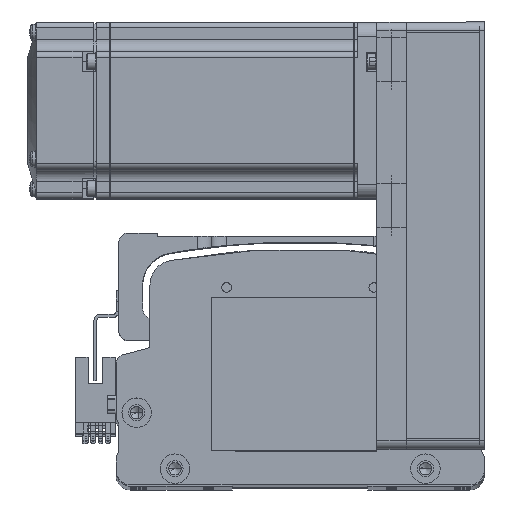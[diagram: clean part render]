
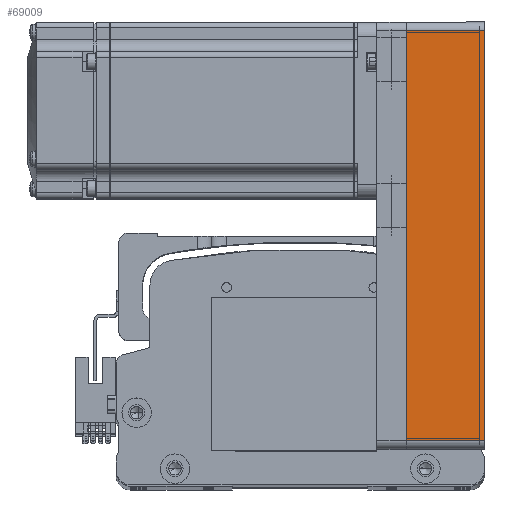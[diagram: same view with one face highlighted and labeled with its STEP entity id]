
A CAD part, top view. The second image highlights one B-rep face of the part: STEP entity #69009.
In plain terms, the highlighted planar face has unit normal (0, 0, 1) as drawn and (0, 1, 0) by its records, which use the part's own axes.
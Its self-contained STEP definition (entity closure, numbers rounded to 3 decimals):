
#2108 = PLANE ( 'NONE',  #18471 ) ;
#2145 = DIRECTION ( 'NONE',  ( -1., 0., 0. ) ) ;
#2382 = DIRECTION ( 'NONE',  ( 1., 0., 0. ) ) ;
#3244 = VECTOR ( 'NONE', #55928, 1000. ) ;
#7361 = VERTEX_POINT ( 'NONE', #68533 ) ;
#8563 = CARTESIAN_POINT ( 'NONE',  ( 72.5, 30., 0. ) ) ;
#10056 = CARTESIAN_POINT ( 'NONE',  ( 69.5, 30., 26.5 ) ) ;
#10333 = EDGE_CURVE ( 'NONE', #7361, #13681, #13530, .T. ) ;
#13530 = LINE ( 'NONE', #76193, #28523 ) ;
#13681 = VERTEX_POINT ( 'NONE', #60193 ) ;
#18471 = AXIS2_PLACEMENT_3D ( 'NONE', #78569, #40540, #2382 ) ;
#18745 = VECTOR ( 'NONE', #2145, 1000. ) ;
#22218 = LINE ( 'NONE', #24321, #3244 ) ;
#24321 = CARTESIAN_POINT ( 'NONE',  ( 72.5, 30., 26.5 ) ) ;
#27795 = ORIENTED_EDGE ( 'NONE', *, *, #79652, .T. ) ;
#28523 = VECTOR ( 'NONE', #38107, 1000. ) ;
#32317 = ORIENTED_EDGE ( 'NONE', *, *, #10333, .T. ) ;
#32883 = FACE_OUTER_BOUND ( 'NONE', #62551, .T. ) ;
#35297 = CARTESIAN_POINT ( 'NONE',  ( 69.5, 30., 0. ) ) ;
#35493 = ORIENTED_EDGE ( 'NONE', *, *, #39513, .F. ) ;
#35592 = VECTOR ( 'NONE', #60964, 1000. ) ;
#38107 = DIRECTION ( 'NONE',  ( 0., 0., 1. ) ) ;
#39513 = EDGE_CURVE ( 'NONE', #81932, #13681, #22218, .T. ) ;
#40540 = DIRECTION ( 'NONE',  ( 0., -1., 0. ) ) ;
#47295 = EDGE_CURVE ( 'NONE', #63990, #7361, #52515, .T. ) ;
#52454 = LINE ( 'NONE', #10056, #35592 ) ;
#52515 = LINE ( 'NONE', #8563, #18745 ) ;
#55928 = DIRECTION ( 'NONE',  ( -1., 0., 0. ) ) ;
#59386 = ORIENTED_EDGE ( 'NONE', *, *, #47295, .T. ) ;
#60193 = CARTESIAN_POINT ( 'NONE',  ( -69.5, 30., 26.5 ) ) ;
#60964 = DIRECTION ( 'NONE',  ( 0., 0., -1. ) ) ;
#62551 = EDGE_LOOP ( 'NONE', ( #59386, #32317, #35493, #27795 ) ) ;
#63990 = VERTEX_POINT ( 'NONE', #35297 ) ;
#64278 = CARTESIAN_POINT ( 'NONE',  ( 69.5, 30., 26.5 ) ) ;
#68533 = CARTESIAN_POINT ( 'NONE',  ( -69.5, 30., 0. ) ) ;
#69009 = ADVANCED_FACE ( 'NONE', ( #32883 ), #2108, .F. ) ;
#76193 = CARTESIAN_POINT ( 'NONE',  ( -69.5, 30., 26.5 ) ) ;
#78569 = CARTESIAN_POINT ( 'NONE',  ( 72.5, 30., 26.5 ) ) ;
#79652 = EDGE_CURVE ( 'NONE', #81932, #63990, #52454, .T. ) ;
#81932 = VERTEX_POINT ( 'NONE', #64278 ) ;
